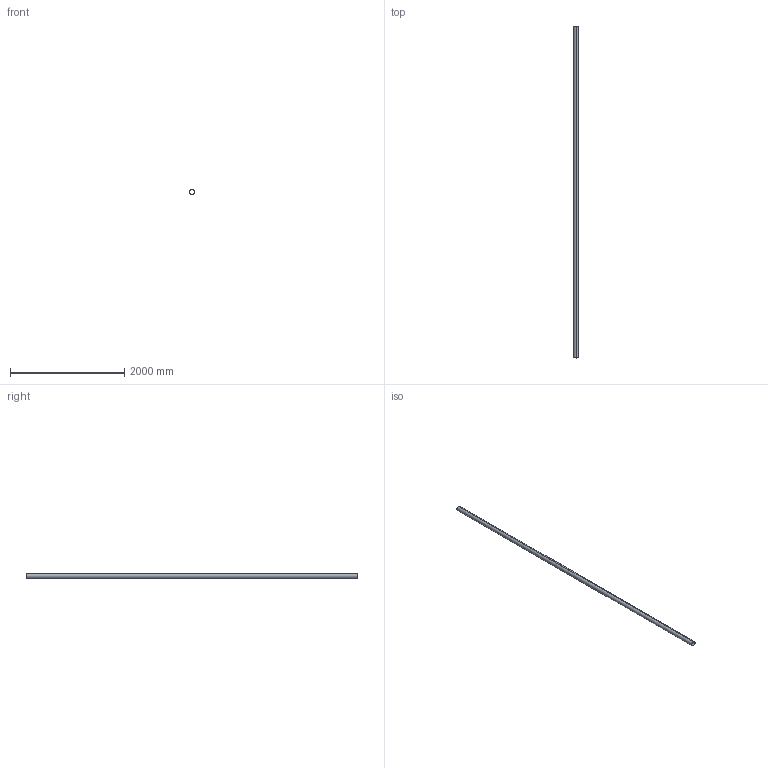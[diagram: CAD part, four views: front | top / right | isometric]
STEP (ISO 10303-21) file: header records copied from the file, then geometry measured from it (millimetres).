
FILE_DESCRIPTION(/* description */ (''),/* implementation_level */ '2;1');
FILE_NAME(/* name */ '2014 7000 00_step.stp',/* time_stamp */ '2025-06-20T15:07:20+08:00',/* author */ (''),/* organization */ (''),/* preprocessor_version */ 'ST-DEVELOPER v14',/* originating_system */ 'SIEMENS PLM Software NX 8.0',/* authorisation */ '');
FILE_SCHEMA (('CONFIG_CONTROL_DESIGN'));
Length unit declared in the file: millimetre
Products named in the file (1): 2014 7000 00_step
Bounding box: 84.8 x 5800 x 84.8 mm (x, y, z)
Volume: 3311163.3 mm3; surface area: 3011290.2 mm2
Topology: 1 solids, 1 shells, 6 faces, 12 edges, 8 vertices
Faces by surface type: cylinder 4, plane 2
Entity records: 252 total; most frequent: DIRECTION 34, CARTESIAN_POINT 27, ORIENTED_EDGE 24, AXIS2_PLACEMENT_3D 15, EDGE_CURVE 12, EDGE_LOOP 8, VERTEX_POINT 8, CIRCLE 8
